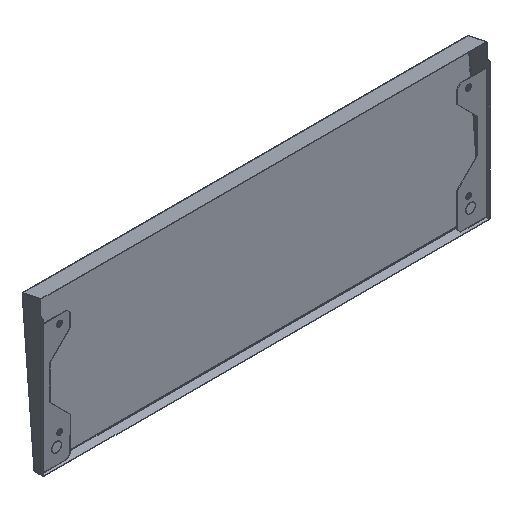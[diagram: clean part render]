
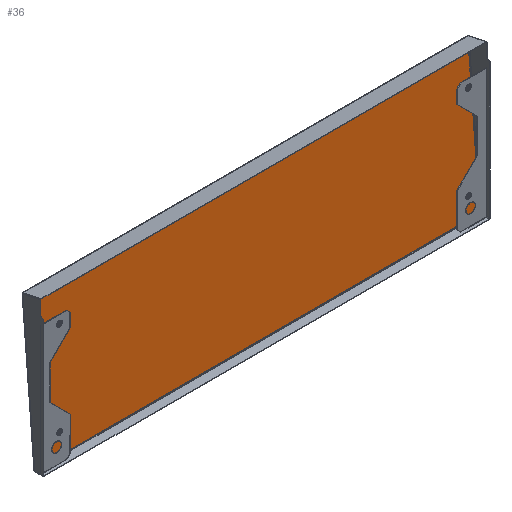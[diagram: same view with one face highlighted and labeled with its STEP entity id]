
A CAD part, isometric view. The second image highlights one B-rep face of the part: STEP entity #36.
In plain terms, the highlighted planar face has unit normal (0, -0.997, 0.081).
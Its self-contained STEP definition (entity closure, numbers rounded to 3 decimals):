
#36 = ADVANCED_FACE ( 'NONE', ( #611 ), #2548, .F. ) ;
#313 = EDGE_CURVE ( 'NONE', #3255, #3257, #4000, .T. ) ;
#314 = EDGE_CURVE ( 'NONE', #3257, #3256, #4003, .T. ) ;
#315 = EDGE_CURVE ( 'NONE', #3254, #3255, #4006, .T. ) ;
#316 = EDGE_CURVE ( 'NONE', #3256, #3254, #4009, .T. ) ;
#535 = VECTOR ( 'NONE', #4011, 1000. ) ;
#537 = VECTOR ( 'NONE', #4008, 1000. ) ;
#538 = VECTOR ( 'NONE', #4005, 1000. ) ;
#539 = VECTOR ( 'NONE', #4002, 1000. ) ;
#611 = FACE_OUTER_BOUND ( 'NONE', #3496, .T. ) ;
#632 = AXIS2_PLACEMENT_3D ( 'NONE', #2549, #2550, #2551 ) ;
#1130 = ORIENTED_EDGE ( 'NONE', *, *, #316, .F. ) ;
#1131 = ORIENTED_EDGE ( 'NONE', *, *, #313, .F. ) ;
#1132 = ORIENTED_EDGE ( 'NONE', *, *, #315, .F. ) ;
#1133 = ORIENTED_EDGE ( 'NONE', *, *, #314, .F. ) ;
#2236 = CARTESIAN_POINT ( 'NONE',  ( -2., 57.232, 401.262 ) ) ;
#2237 = CARTESIAN_POINT ( 'NONE',  ( -2., 24.953, 1.952 ) ) ;
#2238 = CARTESIAN_POINT ( 'NONE',  ( -1208., 57.232, 401.262 ) ) ;
#2239 = CARTESIAN_POINT ( 'NONE',  ( -1208., 24.953, 1.952 ) ) ;
#2548 = PLANE ( 'NONE',  #632 ) ;
#2549 = CARTESIAN_POINT ( 'NONE',  ( -1210., 57.375, 403.026 ) ) ;
#2550 = DIRECTION ( 'NONE',  ( 0., 0.997, -0.081 ) ) ;
#2551 = DIRECTION ( 'NONE',  ( 0., 0.081, 0.997 ) ) ;
#3254 = VERTEX_POINT ( 'NONE', #2236 ) ;
#3255 = VERTEX_POINT ( 'NONE', #2237 ) ;
#3256 = VERTEX_POINT ( 'NONE', #2238 ) ;
#3257 = VERTEX_POINT ( 'NONE', #2239 ) ;
#3496 = EDGE_LOOP ( 'NONE', ( #1133, #1131, #1132, #1130 ) ) ;
#4000 = LINE ( 'NONE', #4001, #539 ) ;
#4001 = CARTESIAN_POINT ( 'NONE',  ( -1210., 24.953, 1.952 ) ) ;
#4002 = DIRECTION ( 'NONE',  ( -1., 0., 0. ) ) ;
#4003 = LINE ( 'NONE', #4004, #538 ) ;
#4004 = CARTESIAN_POINT ( 'NONE',  ( -1208., 57.375, 403.026 ) ) ;
#4005 = DIRECTION ( 'NONE',  ( 0., 0.081, 0.997 ) ) ;
#4006 = LINE ( 'NONE', #4007, #537 ) ;
#4007 = CARTESIAN_POINT ( 'NONE',  ( -2., 57.375, 403.026 ) ) ;
#4008 = DIRECTION ( 'NONE',  ( 0., -0.081, -0.997 ) ) ;
#4009 = LINE ( 'NONE', #4010, #535 ) ;
#4010 = CARTESIAN_POINT ( 'NONE',  ( -1210., 57.232, 401.262 ) ) ;
#4011 = DIRECTION ( 'NONE',  ( 1., 0., 0. ) ) ;
